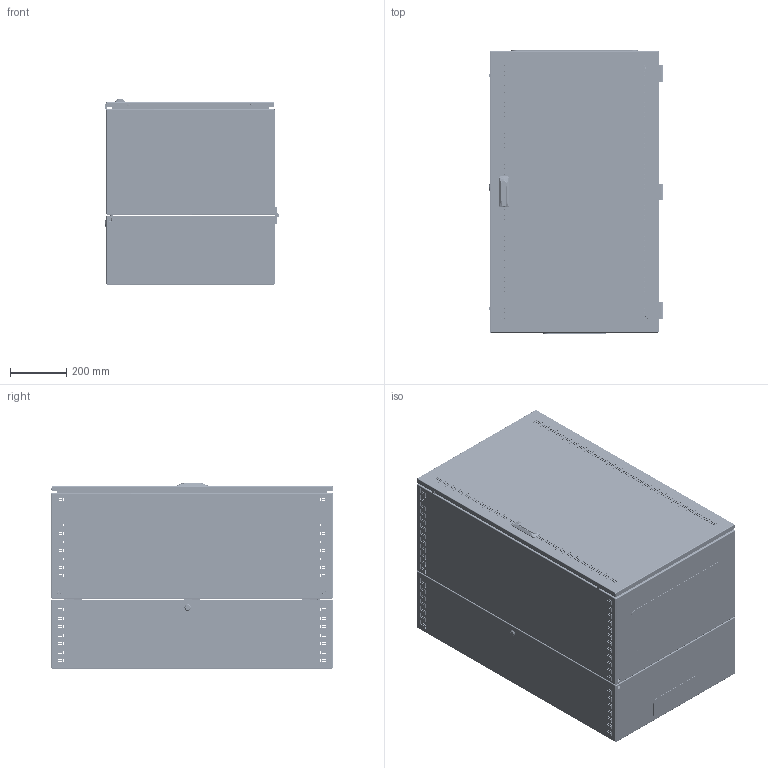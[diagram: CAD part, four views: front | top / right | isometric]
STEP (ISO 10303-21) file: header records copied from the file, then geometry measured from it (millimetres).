
FILE_DESCRIPTION (( 'STEP AP203' ), '1' );
FILE_NAME ('R5STI2065.STEP', '2019-07-16T12:21:51', ( '' ), ( '' ), 'SwSTEP 2.0', 'SolidWorks 2017', '' );
FILE_SCHEMA (( 'CONFIG_CONTROL_DESIGN' ));
Length unit declared in the file: millimetre
Products named in the file (50): AC00C061_AC00C061; RB.0374.00.02.0 mirror_-07 (20U); 4.8x13 DIN 7981 (R5A07)_straight; Ì6õ12-A5100231_thread; AC00C383; RB.0692.01.02.0_-03 (1000x600); RB.0374.04.01.0; M6x12-DIN 6921_stright; M6x10-A1100004_straight; RB.0374.05.00.0 捘_-03 (1000x600); M6 art.MGR-MKO-0625_2洵; Ì6õ20-A5100001_straight; RB.0374.04.00.0 CÁ; AC00C401_AC00C401; Handle 308 Mesan; AC00C112; RB.0692.02.01.0; RB.0692.01.00.0 C縫-03 (1000x600x400); M6-DIN 6923 (CM100600)_straight; AC00C380; RB.0374.06.00.0 捘_-03 (1000x600); PF 7,5x15 door STI_1000x0600; RB.0692.02.00.0 C縫-03 (1000x600x400); RB.0374.03.01.0; Lock 20x17,5x90 Ruslock; R5STI2065; RB.0692.03.01.0_-03 (1000x600); RB.0374.00.01.0_-00 (400); Handle Mesan (part 1); Hinge M8 60x60 Ruslock; RB.0374.03.00.0 CÁ; Nut 20x17,5x90 Ruslock; RB.0374.01.02.0_-03 (1000x600); MirrorRB.0374.00.01.0_-00 (400)<As Machined>; Handle Mesan (part 2); M8-DIN 6923 (CM100800)_stright; RB.0692.01.01.0_-03 (1000x600x400); RB.0048.02.01.0; Ì6õ12-A5100231_straight; MirrorMirrorRB.0374.00.01.0_-00 (400)<As Machined><As Machined>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
Assembly tree (161 placements, depth 4):
  R5STI2065
    RB.0692.04.00.0 捘_-03 (1000x600)
      RB.0692.03.00.0 C縫-03 (1000x600)
        RB.0692.03.01.0_-03 (1000x600)
        RB.0374.01.02.0_-03 (1000x600)
        Ì6õ12-A5100231_straight  x2
      AC00C061_AC00C061  x4
      RB.0374.04.00.0 CÁ  x2
        RB.0374.04.01.0
        Ì6õ12-A5100231_straight
      M6-DIN 6923 (CM100600)_straight  x8
      Lock 20x17,5x90 Ruslock
        Lock 20x17,5x90 Ruslock
        Nut 20x17,5x90 Ruslock
    RB.0692.02.00.0 C縫-03 (1000x600x400)
      RB.0692.01.00.0 C縫-03 (1000x600x400)
        RB.0692.01.01.0_-03 (1000x600x400)
        RB.0692.01.02.0_-03 (1000x600)
        Ì6õ20-A5100001_straight  x4
        Ì6õ12-A5100231_straight  x12
      RB.0374.03.00.0 CÁ  x2
        RB.0374.03.01.0
        Ì6õ12-A5100231_straight
      RB.0048.02.01.0  x2
      AC00C399  x2
      M4x8 GOST 17475-80 (DIN 965)_straight  x4
      AC00C383  x2
      AC00C061_AC00C061  x8
      M6-DIN 6923 (CM100600)_straight  x8
      M6 art.MGR-MKO-0625_2洵  x2
      RB.0692.02.01.0  x2
    Hinge M8 60x60 Ruslock  x6
    M8-DIN 6923 (CM100800)_stright  x12
    RB.0374.06.00.0 捘_-03 (1000x600)
      RB.0374.05.00.0 捘_-03 (1000x600)
        RB.0374.05.01.0_-03 (1000x600)
        AC00C398  x2
        Ì6õ12-A5100231_straight
        Ì6õ12-A5100231_thread
      AC00C112  x4
      AC00C061_AC00C061  x2
      PF 7,5x15 door STI_1000x0600
      Handle 308 Mesan
        Handle Mesan (part 1)
        Handle Mesan (part 2)
        Catch Mesan
        Handle Mesan (part 3)
        4.8x13 DIN 7981 (R5A07)_straight  x3
        M6x10-A1100004_straight
    RB.0374.00.01.0_-00 (400)
    MirrorRB.0374.00.01.0_-00 (400)<As Machined>  x2
    MirrorMirrorRB.0374.00.01.0_-00 (400)<As Machined><As Machined>
    RB.0374.00.02.0_-03 (20U)  x2
    RB.0374.00.02.0 mirror_-07 (20U)
    M6-DIN 6923 (CM100600)_straight  x16
    M6x12-DIN 6921_stright  x8
    AC00C401_AC00C401  x2
    AC00C380  x2
Bounding box: 620 x 1003 x 662.96 mm (x, y, z)
Volume: 5700671.1 mm3; surface area: 8225634.9 mm2
Topology: 222 solids, 222 shells, 10128 faces, 26351 edges, 16932 vertices
Faces by surface type: plane 5900, cylinder 1721, bspline 1389, cone 856, torus 234, sphere 28
Entity records: 301342 total; most frequent: CARTESIAN_POINT 139384, ORIENTED_EDGE 33740, DIRECTION 27426, EDGE_CURVE 16870, VECTOR 12592, LINE 12592, VERTEX_POINT 10998, EDGE_LOOP 7896
